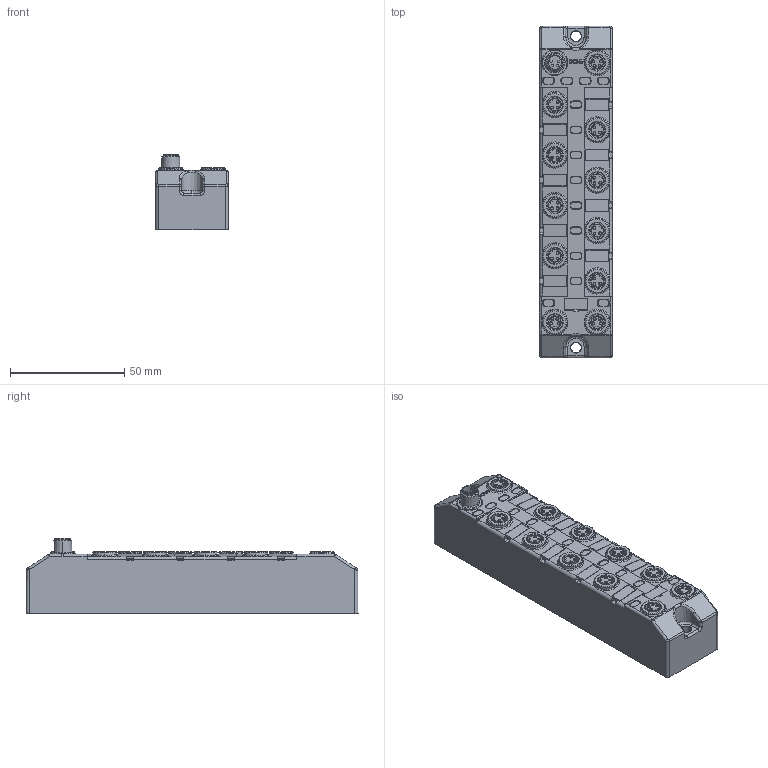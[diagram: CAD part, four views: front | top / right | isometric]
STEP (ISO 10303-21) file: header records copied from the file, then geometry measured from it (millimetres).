
FILE_DESCRIPTION (( 'STEP AP203' ), '1' );
FILE_NAME ('006CA3.STEP', '2023-07-13T02:32:25', ( '' ), ( '' ), 'SwSTEP 2.0', 'SolidWorks 2016', '' );
FILE_SCHEMA (( 'CONFIG_CONTROL_DESIGN' ));
Products named in the file (1): 006CA3
Bounding box: 32 x 145 x 33 mm (x, y, z)
Volume: 114384.8 mm3; surface area: 24999 mm2
Topology: 1 solids, 1 shells, 1688 faces, 4471 edges, 2863 vertices
Faces by surface type: plane 757, cylinder 483, cone 254, torus 99, bspline 83, sphere 12
Entity records: 60067 total; most frequent: CARTESIAN_POINT 18840, ORIENTED_EDGE 8918, DIRECTION 8295, EDGE_CURVE 4459, VERTEX_POINT 2861, AXIS2_PLACEMENT_3D 2856, VECTOR 2583, LINE 2583
